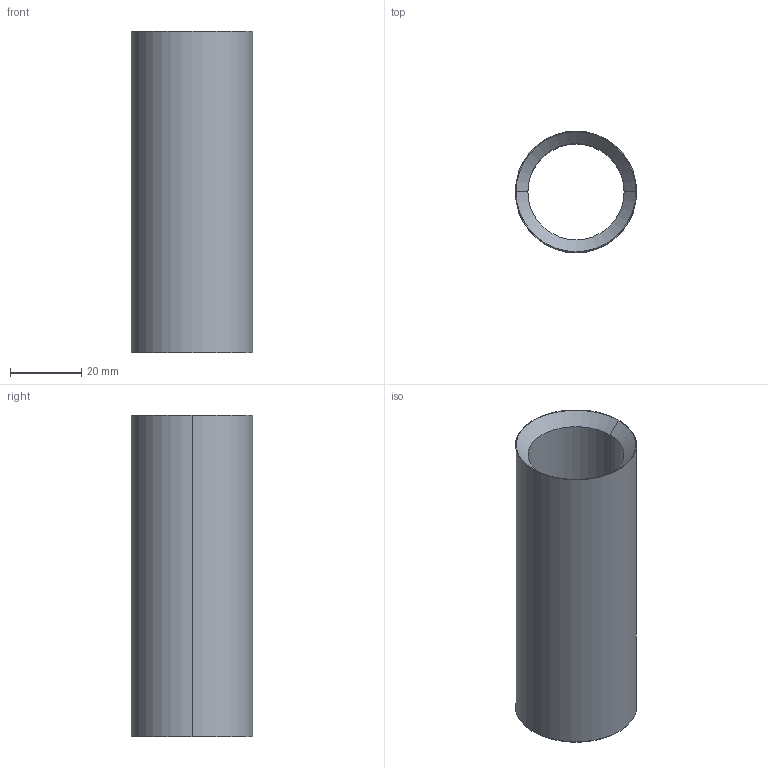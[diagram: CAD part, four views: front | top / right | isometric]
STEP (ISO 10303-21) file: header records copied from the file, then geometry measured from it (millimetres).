
FILE_DESCRIPTION (( 'STEP AP214' ), '1' );
FILE_NAME ('OptiKit C-GTY-400.STEP', '2020-05-19T08:37:49', ( '' ), ( '' ), 'SwSTEP 2.0', 'SolidWorks 2018', '' );
FILE_SCHEMA (( 'AUTOMOTIVE_DESIGN' ));
Length unit declared in the file: millimetre
Products named in the file (1): OptiKit  C-GTY-400
Bounding box: 34 x 34 x 90 mm (x, y, z)
Volume: 29183.9 mm3; surface area: 17618.5 mm2
Topology: 1 solids, 1 shells, 10 faces, 20 edges, 12 vertices
Faces by surface type: cone 4, cylinder 4, plane 2
Entity records: 302 total; most frequent: DIRECTION 54, CARTESIAN_POINT 43, ORIENTED_EDGE 40, AXIS2_PLACEMENT_3D 23, EDGE_CURVE 20, VERTEX_POINT 12, CIRCLE 12, EDGE_LOOP 12
